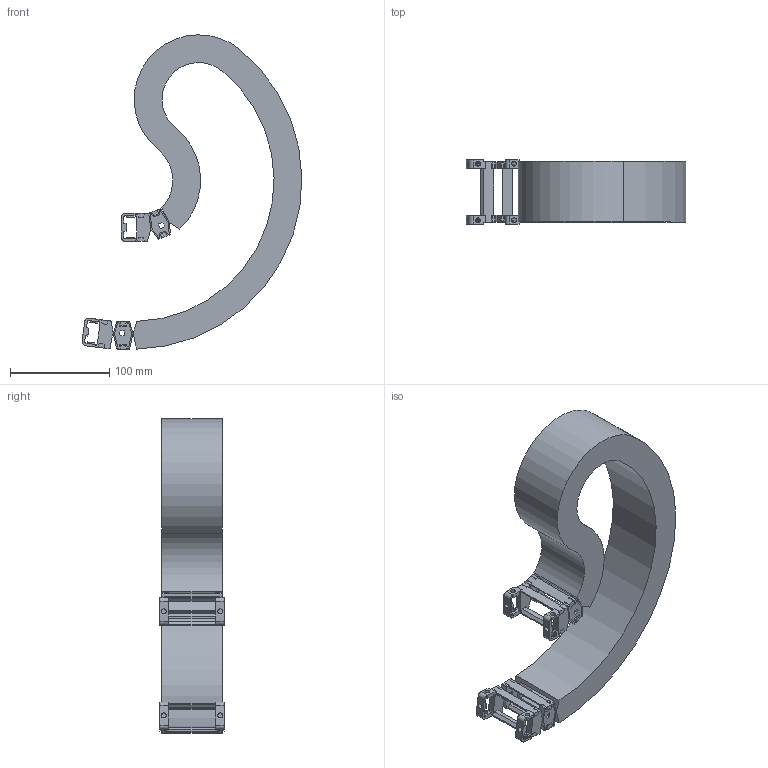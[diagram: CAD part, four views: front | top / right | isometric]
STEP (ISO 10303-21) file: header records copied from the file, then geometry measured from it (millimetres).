
FILE_DESCRIPTION( ( 'STEP AP214' ), '1' );
FILE_NAME( 'e:/temp/worker_21/temp/exporttempdir_484_208_k62Vi/format_1/RV020CRA61674030130150-0047893.2245.stp', '2021-07-23T16:17:52', ( 'License CC BY-ND 4.0' ), ( 'CADENAS' ), ' ', 'PARTsolutions', ' ' );
FILE_SCHEMA( ( 'AUTOMOTIVE_DESIGN { 1 0 10303 214 1 1 1 1 }' ) );
Length unit declared in the file: millimetre
Products named in the file (4): RV020CRA61674030130150-0047893.2245; _RV020CRA61674030130150-0047563.52-Chain; _RV020CR-20-47; _RV 020CR_FB-61
Assembly tree (5 placements, depth 2):
  RV020CRA61674030130150-0047893.2245
    _RV020CRA61674030130150-0047563.52-Chain
    _RV020CR-20-47  x2
    _RV 020CR_FB-61  x2
Bounding box: 221.3 x 65 x 316.56 mm (x, y, z)
Volume: 525882.6 mm3; surface area: 225693.6 mm2
Topology: 5 solids, 5 shells, 600 faces, 1724 edges, 1124 vertices
Faces by surface type: plane 480, cylinder 120
Full cylindrical faces by diameter (mm): 5 x12
Entity records: 12586 total; most frequent: CARTESIAN_POINT 1776, ORIENTED_EDGE 1764, DIRECTION 1656, EDGE_CURVE 882, LINE 740, VECTOR 740, VERTEX_POINT 578, AXIS2_PLACEMENT_3D 458
